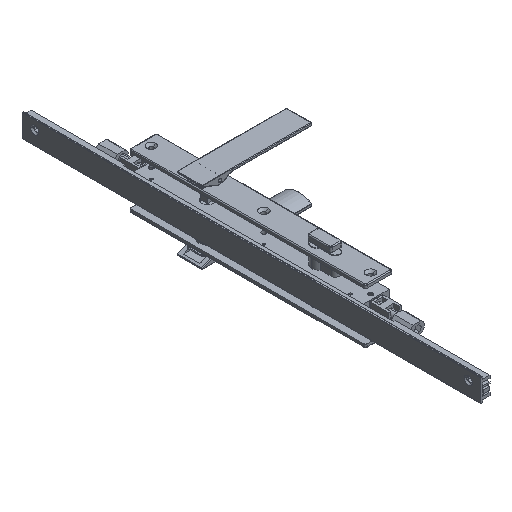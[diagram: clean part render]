
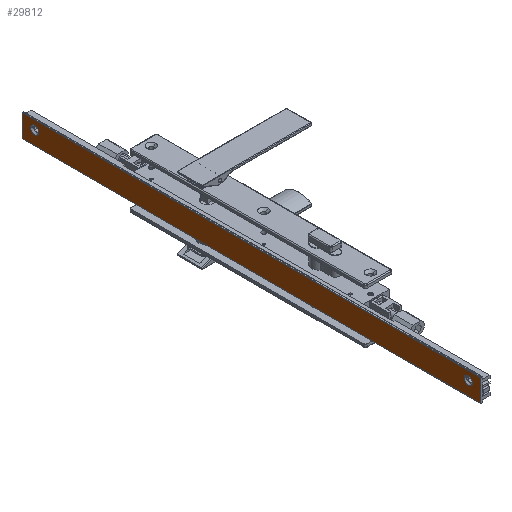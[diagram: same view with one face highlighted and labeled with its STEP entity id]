
A CAD part, isometric view. The second image highlights one B-rep face of the part: STEP entity #29812.
In plain terms, the highlighted planar face has unit normal (-1, 0, 0) as drawn and (0, 1, 0) by its records, which use the part's own axes.
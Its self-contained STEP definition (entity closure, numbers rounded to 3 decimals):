
#227 = VERTEX_POINT ( 'NONE', #10280 ) ;
#627 = CARTESIAN_POINT ( 'NONE',  ( -4.4, 12.4, 544. ) ) ;
#886 = CIRCLE ( 'NONE', #6301, 4.89 ) ;
#1643 = CARTESIAN_POINT ( 'NONE',  ( 22., 12.4, 544. ) ) ;
#1883 = AXIS2_PLACEMENT_3D ( 'NONE', #2054, #10130, #20488 ) ;
#2054 = CARTESIAN_POINT ( 'NONE',  ( 20.8, 12.4, 544. ) ) ;
#2084 = CARTESIAN_POINT ( 'NONE',  ( 11.8, 12.4, 15. ) ) ;
#2402 = DIRECTION ( 'NONE',  ( 0., 1., 0. ) ) ;
#3265 = LINE ( 'NONE', #29407, #30412 ) ;
#3941 = ORIENTED_EDGE ( 'NONE', *, *, #24016, .T. ) ;
#4074 = ORIENTED_EDGE ( 'NONE', *, *, #27269, .F. ) ;
#5160 = EDGE_CURVE ( 'NONE', #32370, #19444, #8890, .T. ) ;
#5167 = ORIENTED_EDGE ( 'NONE', *, *, #33362, .F. ) ;
#5809 = CARTESIAN_POINT ( 'NONE',  ( 22., 12.4, 0. ) ) ;
#5848 = EDGE_LOOP ( 'NONE', ( #18174, #5167 ) ) ;
#6301 = AXIS2_PLACEMENT_3D ( 'NONE', #8334, #21210, #10853 ) ;
#7323 = CIRCLE ( 'NONE', #17577, 4.889 ) ;
#8334 = CARTESIAN_POINT ( 'NONE',  ( 11.8, 12.4, 15. ) ) ;
#8643 = VERTEX_POINT ( 'NONE', #19351 ) ;
#8890 = CIRCLE ( 'NONE', #16991, 4.89 ) ;
#10130 = DIRECTION ( 'NONE',  ( 0., -1., 0. ) ) ;
#10187 = DIRECTION ( 'NONE',  ( 0., 1., 0. ) ) ;
#10280 = CARTESIAN_POINT ( 'NONE',  ( 11.8, 12.4, 533.889 ) ) ;
#10537 = VERTEX_POINT ( 'NONE', #1643 ) ;
#10694 = DIRECTION ( 'NONE',  ( 0., 0., 1. ) ) ;
#10853 = DIRECTION ( 'NONE',  ( 0., 0., 1. ) ) ;
#11067 = EDGE_LOOP ( 'NONE', ( #27505, #16497 ) ) ;
#11390 = EDGE_CURVE ( 'NONE', #8643, #28940, #30550, .T. ) ;
#11770 = CARTESIAN_POINT ( 'NONE',  ( -4.4, 12.4, 0. ) ) ;
#11782 = CARTESIAN_POINT ( 'NONE',  ( 11.8, 12.4, 524.111 ) ) ;
#12612 = VERTEX_POINT ( 'NONE', #11782 ) ;
#12642 = CARTESIAN_POINT ( 'NONE',  ( 11.8, 12.4, 529. ) ) ;
#12933 = EDGE_CURVE ( 'NONE', #227, #12612, #7323, .T. ) ;
#13289 = LINE ( 'NONE', #13455, #29379 ) ;
#13455 = CARTESIAN_POINT ( 'NONE',  ( -4.4, 12.4, 0. ) ) ;
#13582 = DIRECTION ( 'NONE',  ( -1., 0., 0. ) ) ;
#14436 = CIRCLE ( 'NONE', #23635, 4.889 ) ;
#15174 = DIRECTION ( 'NONE',  ( 0., 1., 0. ) ) ;
#16497 = ORIENTED_EDGE ( 'NONE', *, *, #5160, .F. ) ;
#16991 = AXIS2_PLACEMENT_3D ( 'NONE', #2084, #2402, #19856 ) ;
#17408 = EDGE_CURVE ( 'NONE', #8643, #10537, #21705, .T. ) ;
#17424 = FACE_OUTER_BOUND ( 'NONE', #18684, .T. ) ;
#17577 = AXIS2_PLACEMENT_3D ( 'NONE', #30286, #10187, #10694 ) ;
#18174 = ORIENTED_EDGE ( 'NONE', *, *, #12933, .F. ) ;
#18684 = EDGE_LOOP ( 'NONE', ( #25009, #3941, #4074, #21601 ) ) ;
#19351 = CARTESIAN_POINT ( 'NONE',  ( 22., 12.4, 0. ) ) ;
#19444 = VERTEX_POINT ( 'NONE', #29995 ) ;
#19856 = DIRECTION ( 'NONE',  ( 0., 0., 1. ) ) ;
#20488 = DIRECTION ( 'NONE',  ( 1., 0., 0. ) ) ;
#21210 = DIRECTION ( 'NONE',  ( 0., 1., 0. ) ) ;
#21601 = ORIENTED_EDGE ( 'NONE', *, *, #17408, .F. ) ;
#21705 = LINE ( 'NONE', #5809, #24132 ) ;
#22548 = CARTESIAN_POINT ( 'NONE',  ( 11.8, 12.4, 10.111 ) ) ;
#23027 = FACE_BOUND ( 'NONE', #11067, .T. ) ;
#23184 = DIRECTION ( 'NONE',  ( -1., 0., 0. ) ) ;
#23621 = DIRECTION ( 'NONE',  ( 0., 0., 1. ) ) ;
#23635 = AXIS2_PLACEMENT_3D ( 'NONE', #12642, #15174, #33335 ) ;
#24016 = EDGE_CURVE ( 'NONE', #28940, #28787, #13289, .T. ) ;
#24132 = VECTOR ( 'NONE', #32085, 1000. ) ;
#25009 = ORIENTED_EDGE ( 'NONE', *, *, #11390, .T. ) ;
#27269 = EDGE_CURVE ( 'NONE', #10537, #28787, #3265, .T. ) ;
#27505 = ORIENTED_EDGE ( 'NONE', *, *, #31476, .F. ) ;
#27817 = PLANE ( 'NONE',  #1883 ) ;
#28787 = VERTEX_POINT ( 'NONE', #627 ) ;
#28940 = VERTEX_POINT ( 'NONE', #11770 ) ;
#29379 = VECTOR ( 'NONE', #23621, 1000. ) ;
#29407 = CARTESIAN_POINT ( 'NONE',  ( 20.8, 12.4, 544. ) ) ;
#29812 = ADVANCED_FACE ( 'NONE', ( #23027, #33378, #17424 ), #27817, .F. ) ;
#29995 = CARTESIAN_POINT ( 'NONE',  ( 11.8, 12.4, 19.89 ) ) ;
#30286 = CARTESIAN_POINT ( 'NONE',  ( 11.8, 12.4, 529. ) ) ;
#30412 = VECTOR ( 'NONE', #13582, 1000. ) ;
#30550 = LINE ( 'NONE', #30872, #32631 ) ;
#30872 = CARTESIAN_POINT ( 'NONE',  ( 20.8, 12.4, 0. ) ) ;
#31476 = EDGE_CURVE ( 'NONE', #19444, #32370, #886, .T. ) ;
#32085 = DIRECTION ( 'NONE',  ( 0., 0., 1. ) ) ;
#32370 = VERTEX_POINT ( 'NONE', #22548 ) ;
#32631 = VECTOR ( 'NONE', #23184, 1000. ) ;
#33335 = DIRECTION ( 'NONE',  ( 0., 0., 1. ) ) ;
#33362 = EDGE_CURVE ( 'NONE', #12612, #227, #14436, .T. ) ;
#33378 = FACE_BOUND ( 'NONE', #5848, .T. ) ;
